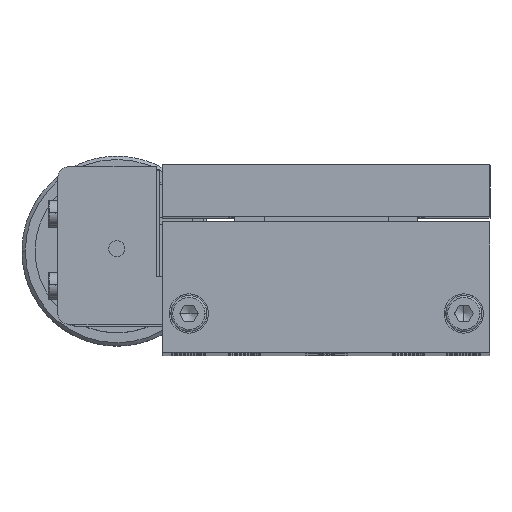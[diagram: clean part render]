
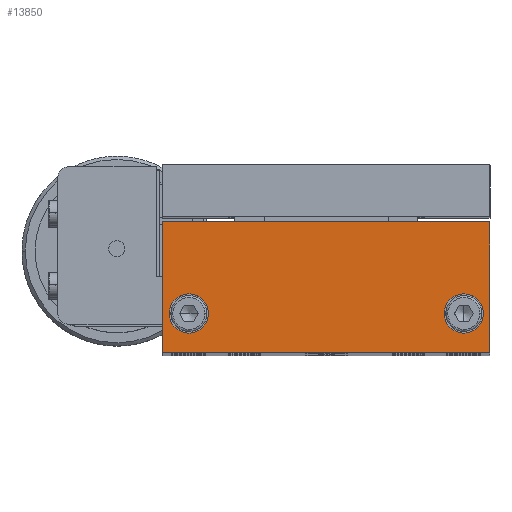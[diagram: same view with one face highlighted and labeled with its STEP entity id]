
A CAD part, top view. The second image highlights one B-rep face of the part: STEP entity #13850.
In plain terms, the highlighted planar face has unit normal (0, 0, 1).
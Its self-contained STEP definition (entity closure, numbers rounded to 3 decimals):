
#12540 = EDGE_CURVE ( 'NONE', #19548, #19454, #44601, .T. ) ;
#12547 = EDGE_CURVE ( 'NONE', #19472, #19445, #44594, .T. ) ;
#13362 = EDGE_CURVE ( 'NONE', #13385, #13384, #45165, .T. ) ;
#13384 = VERTEX_POINT ( 'NONE', #45138 ) ;
#13385 = VERTEX_POINT ( 'NONE', #45137 ) ;
#13775 = VERTEX_POINT ( 'NONE', #45685 ) ;
#13776 = ORIENTED_EDGE ( 'NONE', *, *, #13777, .T. ) ;
#13777 = EDGE_CURVE ( 'NONE', #13775, #13778, #45745, .T. ) ;
#13778 = VERTEX_POINT ( 'NONE', #45741 ) ;
#13779 = ORIENTED_EDGE ( 'NONE', *, *, #13780, .F. ) ;
#13780 = EDGE_CURVE ( 'NONE', #13385, #13778, #45740, .T. ) ;
#13781 = ORIENTED_EDGE ( 'NONE', *, *, #13362, .T. ) ;
#13782 = EDGE_LOOP ( 'NONE', ( #13783, #13784 ) ) ;
#13783 = ORIENTED_EDGE ( 'NONE', *, *, #19444, .T. ) ;
#13784 = ORIENTED_EDGE ( 'NONE', *, *, #12547, .T. ) ;
#13785 = EDGE_LOOP ( 'NONE', ( #13840, #13841 ) ) ;
#13840 = ORIENTED_EDGE ( 'NONE', *, *, #19453, .T. ) ;
#13841 = ORIENTED_EDGE ( 'NONE', *, *, #12540, .T. ) ;
#13850 = ADVANCED_FACE ( 'NONE', ( #45791, #45790, #45789 ), #45788, .T. ) ;
#13851 = EDGE_LOOP ( 'NONE', ( #13852, #13776, #13779, #13781 ) ) ;
#13852 = ORIENTED_EDGE ( 'NONE', *, *, #13853, .F. ) ;
#13853 = EDGE_CURVE ( 'NONE', #13775, #13384, #45782, .T. ) ;
#19444 = EDGE_CURVE ( 'NONE', #19445, #19472, #56482, .T. ) ;
#19445 = VERTEX_POINT ( 'NONE', #56539 ) ;
#19453 = EDGE_CURVE ( 'NONE', #19454, #19548, #56517, .T. ) ;
#19454 = VERTEX_POINT ( 'NONE', #56513 ) ;
#19472 = VERTEX_POINT ( 'NONE', #56589 ) ;
#19548 = VERTEX_POINT ( 'NONE', #56741 ) ;
#44586 = DIRECTION ( 'NONE',  ( 0., -1., 0. ) ) ;
#44587 = DIRECTION ( 'NONE',  ( 0., 0., -1. ) ) ;
#44588 = CARTESIAN_POINT ( 'NONE',  ( 46., 3.108, 250. ) ) ;
#44589 = AXIS2_PLACEMENT_3D ( 'NONE', #44588, #44587, #44586 ) ;
#44594 = CIRCLE ( 'NONE', #44589, 3. ) ;
#44597 = DIRECTION ( 'NONE',  ( 0., -1., 0. ) ) ;
#44598 = DIRECTION ( 'NONE',  ( 0., 0., -1. ) ) ;
#44599 = CARTESIAN_POINT ( 'NONE',  ( 4., 3.108, 250. ) ) ;
#44600 = AXIS2_PLACEMENT_3D ( 'NONE', #44599, #44598, #44597 ) ;
#44601 = CIRCLE ( 'NONE', #44600, 3. ) ;
#45137 = CARTESIAN_POINT ( 'NONE',  ( 50., 17.108, 250. ) ) ;
#45138 = CARTESIAN_POINT ( 'NONE',  ( 0., 17.108, 250. ) ) ;
#45162 = DIRECTION ( 'NONE',  ( -1., 0., 0. ) ) ;
#45163 = VECTOR ( 'NONE', #45162, 1000. ) ;
#45164 = CARTESIAN_POINT ( 'NONE',  ( 0., 17.108, 250. ) ) ;
#45165 = LINE ( 'NONE', #45164, #45163 ) ;
#45685 = CARTESIAN_POINT ( 'NONE',  ( 0., -2.892, 250. ) ) ;
#45737 = DIRECTION ( 'NONE',  ( 0., -1., 0. ) ) ;
#45738 = VECTOR ( 'NONE', #45737, 1000. ) ;
#45739 = CARTESIAN_POINT ( 'NONE',  ( 50., 17.108, 250. ) ) ;
#45740 = LINE ( 'NONE', #45739, #45738 ) ;
#45741 = CARTESIAN_POINT ( 'NONE',  ( 50., -2.892, 250. ) ) ;
#45742 = DIRECTION ( 'NONE',  ( 1., 0., 0. ) ) ;
#45743 = VECTOR ( 'NONE', #45742, 1000. ) ;
#45744 = CARTESIAN_POINT ( 'NONE',  ( 0., -2.892, 250. ) ) ;
#45745 = LINE ( 'NONE', #45744, #45743 ) ;
#45779 = DIRECTION ( 'NONE',  ( 0., 1., 0. ) ) ;
#45780 = VECTOR ( 'NONE', #45779, 1000. ) ;
#45781 = CARTESIAN_POINT ( 'NONE',  ( 0., 17.108, 250. ) ) ;
#45782 = LINE ( 'NONE', #45781, #45780 ) ;
#45784 = DIRECTION ( 'NONE',  ( 0., -1., 0. ) ) ;
#45785 = DIRECTION ( 'NONE',  ( 0., 0., 1. ) ) ;
#45786 = CARTESIAN_POINT ( 'NONE',  ( 0., -2.892, 250. ) ) ;
#45787 = AXIS2_PLACEMENT_3D ( 'NONE', #45786, #45785, #45784 ) ;
#45788 = PLANE ( 'NONE',  #45787 ) ;
#45789 = FACE_BOUND ( 'NONE', #13785, .T. ) ;
#45790 = FACE_BOUND ( 'NONE', #13782, .T. ) ;
#45791 = FACE_OUTER_BOUND ( 'NONE', #13851, .T. ) ;
#56478 = DIRECTION ( 'NONE',  ( 0., -1., 0. ) ) ;
#56479 = DIRECTION ( 'NONE',  ( 0., 0., -1. ) ) ;
#56480 = CARTESIAN_POINT ( 'NONE',  ( 46., 3.108, 250. ) ) ;
#56481 = AXIS2_PLACEMENT_3D ( 'NONE', #56480, #56479, #56478 ) ;
#56482 = CIRCLE ( 'NONE', #56481, 3. ) ;
#56513 = CARTESIAN_POINT ( 'NONE',  ( 4., 0.108, 250. ) ) ;
#56514 = DIRECTION ( 'NONE',  ( 0., -1., 0. ) ) ;
#56515 = DIRECTION ( 'NONE',  ( 0., 0., -1. ) ) ;
#56516 = AXIS2_PLACEMENT_3D ( 'NONE', #56522, #56515, #56514 ) ;
#56517 = CIRCLE ( 'NONE', #56516, 3. ) ;
#56522 = CARTESIAN_POINT ( 'NONE',  ( 4., 3.108, 250. ) ) ;
#56539 = CARTESIAN_POINT ( 'NONE',  ( 46., 0.108, 250. ) ) ;
#56589 = CARTESIAN_POINT ( 'NONE',  ( 46., 6.108, 250. ) ) ;
#56741 = CARTESIAN_POINT ( 'NONE',  ( 4., 6.108, 250. ) ) ;
